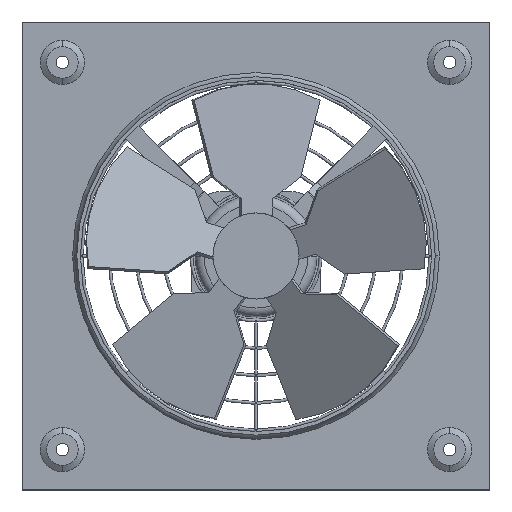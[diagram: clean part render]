
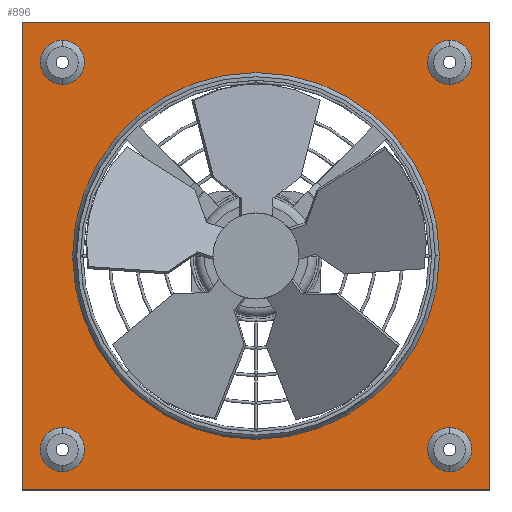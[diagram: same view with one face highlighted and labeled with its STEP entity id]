
A CAD part, top view. The second image highlights one B-rep face of the part: STEP entity #896.
In plain terms, the highlighted planar face has unit normal (0, 0, 1).
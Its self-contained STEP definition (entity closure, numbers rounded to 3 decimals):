
#896=ADVANCED_FACE('',(#1829,#1830,#1831,#1832,#1833,#1834),#1835,.T.);
#1829=FACE_BOUND('',#2766,.T.);
#1830=FACE_BOUND('',#2767,.T.);
#1831=FACE_BOUND('',#2768,.T.);
#1832=FACE_BOUND('',#2769,.T.);
#1833=FACE_OUTER_BOUND('',#2770,.T.);
#1834=FACE_BOUND('',#2771,.T.);
#1835=PLANE('',#2772);
#2766=EDGE_LOOP('',(#5582,#5583));
#2767=EDGE_LOOP('',(#5584,#5585));
#2768=EDGE_LOOP('',(#5586,#5587));
#2769=EDGE_LOOP('',(#5588,#5589));
#2770=EDGE_LOOP('',(#5590,#5591,#5592,#5593));
#2771=EDGE_LOOP('',(#5594,#5595,#5596));
#2772=AXIS2_PLACEMENT_3D('',#5597,#5598,#5599);
#5582=ORIENTED_EDGE('',*,*,#6746,.T.);
#5583=ORIENTED_EDGE('',*,*,#5924,.T.);
#5584=ORIENTED_EDGE('',*,*,#6750,.T.);
#5585=ORIENTED_EDGE('',*,*,#5919,.T.);
#5586=ORIENTED_EDGE('',*,*,#6754,.T.);
#5587=ORIENTED_EDGE('',*,*,#5914,.T.);
#5588=ORIENTED_EDGE('',*,*,#6758,.T.);
#5589=ORIENTED_EDGE('',*,*,#5909,.T.);
#5590=ORIENTED_EDGE('',*,*,#6775,.T.);
#5591=ORIENTED_EDGE('',*,*,#6776,.T.);
#5592=ORIENTED_EDGE('',*,*,#6777,.T.);
#5593=ORIENTED_EDGE('',*,*,#6778,.T.);
#5594=ORIENTED_EDGE('',*,*,#6779,.F.);
#5595=ORIENTED_EDGE('',*,*,#6780,.F.);
#5596=ORIENTED_EDGE('',*,*,#5880,.F.);
#5597=CARTESIAN_POINT('',(0.0,0.0,13.95));
#5598=DIRECTION('',(0.0,0.0,1.0));
#5599=DIRECTION('',(1.0,0.0,0.0));
#5880=EDGE_CURVE('',#7162,#7164,#7165,.T.);
#5909=EDGE_CURVE('',#7216,#7213,#7217,.T.);
#5914=EDGE_CURVE('',#7225,#7222,#7226,.T.);
#5919=EDGE_CURVE('',#7234,#7231,#7235,.T.);
#5924=EDGE_CURVE('',#7243,#7240,#7244,.T.);
#6746=EDGE_CURVE('',#7240,#7243,#8383,.T.);
#6750=EDGE_CURVE('',#7231,#7234,#8387,.T.);
#6754=EDGE_CURVE('',#7222,#7225,#8391,.T.);
#6758=EDGE_CURVE('',#7213,#7216,#8395,.T.);
#6775=EDGE_CURVE('',#8412,#8413,#8414,.T.);
#6776=EDGE_CURVE('',#8413,#8415,#8416,.T.);
#6777=EDGE_CURVE('',#8415,#8417,#8418,.T.);
#6778=EDGE_CURVE('',#8417,#8412,#8419,.T.);
#6779=EDGE_CURVE('',#8420,#7162,#8421,.T.);
#6780=EDGE_CURVE('',#7164,#8420,#8422,.T.);
#7162=VERTEX_POINT('',#11898);
#7164=VERTEX_POINT('',#11900);
#7165=CIRCLE('',#11901,130.5);
#7213=VERTEX_POINT('',#11959);
#7216=VERTEX_POINT('',#11963);
#7217=CIRCLE('',#11964,15.75);
#7222=VERTEX_POINT('',#11970);
#7225=VERTEX_POINT('',#11974);
#7226=CIRCLE('',#11975,15.75);
#7231=VERTEX_POINT('',#11981);
#7234=VERTEX_POINT('',#11985);
#7235=CIRCLE('',#11986,15.75);
#7240=VERTEX_POINT('',#11992);
#7243=VERTEX_POINT('',#11996);
#7244=CIRCLE('',#11997,15.75);
#8383=CIRCLE('',#16371,15.75);
#8387=CIRCLE('',#16375,15.75);
#8391=CIRCLE('',#16379,15.75);
#8395=CIRCLE('',#16383,15.75);
#8412=VERTEX_POINT('',#16400);
#8413=VERTEX_POINT('',#16401);
#8414=LINE('',#16402,#16403);
#8415=VERTEX_POINT('',#16404);
#8416=LINE('',#16405,#16406);
#8417=VERTEX_POINT('',#16407);
#8418=LINE('',#16408,#16409);
#8419=LINE('',#16410,#16411);
#8420=VERTEX_POINT('',#16412);
#8421=CIRCLE('',#16413,130.5);
#8422=CIRCLE('',#16414,130.5);
#11898=CARTESIAN_POINT('',(-130.5,0.,13.95));
#11900=CARTESIAN_POINT('',(130.5,0.,13.95));
#11901=AXIS2_PLACEMENT_3D('',#16637,#16638,#16639);
#11959=CARTESIAN_POINT('',(-137.75,-122.0,13.95));
#11963=CARTESIAN_POINT('',(-137.75,-153.5,13.95));
#11964=AXIS2_PLACEMENT_3D('',#16684,#16685,#16686);
#11970=CARTESIAN_POINT('',(-137.75,153.5,13.95));
#11974=CARTESIAN_POINT('',(-137.75,122.0,13.95));
#11975=AXIS2_PLACEMENT_3D('',#16692,#16693,#16694);
#11981=CARTESIAN_POINT('',(137.75,-122.0,13.95));
#11985=CARTESIAN_POINT('',(137.75,-153.5,13.95));
#11986=AXIS2_PLACEMENT_3D('',#16700,#16701,#16702);
#11992=CARTESIAN_POINT('',(137.75,153.5,13.95));
#11996=CARTESIAN_POINT('',(137.75,122.0,13.95));
#11997=AXIS2_PLACEMENT_3D('',#16708,#16709,#16710);
#16371=AXIS2_PLACEMENT_3D('',#17507,#17508,#17509);
#16375=AXIS2_PLACEMENT_3D('',#17513,#17514,#17515);
#16379=AXIS2_PLACEMENT_3D('',#17519,#17520,#17521);
#16383=AXIS2_PLACEMENT_3D('',#17525,#17526,#17527);
#16400=CARTESIAN_POINT('',(166.5,-166.5,13.95));
#16401=CARTESIAN_POINT('',(166.5,166.5,13.95));
#16402=CARTESIAN_POINT('',(166.5,0.0,13.95));
#16403=VECTOR('',#17543,1.0);
#16404=CARTESIAN_POINT('',(-166.5,166.5,13.95));
#16405=CARTESIAN_POINT('',(0.0,166.5,13.95));
#16406=VECTOR('',#17544,1.0);
#16407=CARTESIAN_POINT('',(-166.5,-166.5,13.95));
#16408=CARTESIAN_POINT('',(-166.5,0.0,13.95));
#16409=VECTOR('',#17545,1.0);
#16410=CARTESIAN_POINT('',(0.0,-166.5,13.95));
#16411=VECTOR('',#17546,1.0);
#16412=CARTESIAN_POINT('',(0.,130.5,13.95));
#16413=AXIS2_PLACEMENT_3D('',#17547,#17548,#17549);
#16414=AXIS2_PLACEMENT_3D('',#17550,#17551,#17552);
#16637=CARTESIAN_POINT('',(0.,0.0,13.95));
#16638=DIRECTION('',(0.,-0.0,1.0));
#16639=DIRECTION('',(0.0,1.0,0.0));
#16684=CARTESIAN_POINT('',(-137.75,-137.75,13.95));
#16685=DIRECTION('',(0.0,0.0,-1.0));
#16686=DIRECTION('',(0.0,1.0,0.0));
#16692=CARTESIAN_POINT('',(-137.75,137.75,13.95));
#16693=DIRECTION('',(0.0,0.0,-1.0));
#16694=DIRECTION('',(0.0,1.0,0.0));
#16700=CARTESIAN_POINT('',(137.75,-137.75,13.95));
#16701=DIRECTION('',(0.0,0.0,-1.0));
#16702=DIRECTION('',(0.0,1.0,0.0));
#16708=CARTESIAN_POINT('',(137.75,137.75,13.95));
#16709=DIRECTION('',(0.0,0.0,-1.0));
#16710=DIRECTION('',(0.0,1.0,0.0));
#17507=CARTESIAN_POINT('',(137.75,137.75,13.95));
#17508=DIRECTION('',(0.0,0.0,-1.0));
#17509=DIRECTION('',(0.0,1.0,0.0));
#17513=CARTESIAN_POINT('',(137.75,-137.75,13.95));
#17514=DIRECTION('',(0.0,0.0,-1.0));
#17515=DIRECTION('',(0.0,1.0,0.0));
#17519=CARTESIAN_POINT('',(-137.75,137.75,13.95));
#17520=DIRECTION('',(0.0,0.0,-1.0));
#17521=DIRECTION('',(0.0,1.0,0.0));
#17525=CARTESIAN_POINT('',(-137.75,-137.75,13.95));
#17526=DIRECTION('',(0.0,0.0,-1.0));
#17527=DIRECTION('',(0.0,1.0,0.0));
#17543=DIRECTION('',(0.0,1.0,0.0));
#17544=DIRECTION('',(-1.0,0.0,0.0));
#17545=DIRECTION('',(0.0,-1.0,0.0));
#17546=DIRECTION('',(1.0,0.0,0.0));
#17547=CARTESIAN_POINT('',(0.,0.0,13.95));
#17548=DIRECTION('',(0.,-0.0,1.0));
#17549=DIRECTION('',(0.0,1.0,0.0));
#17550=CARTESIAN_POINT('',(0.,0.0,13.95));
#17551=DIRECTION('',(0.,-0.0,1.0));
#17552=DIRECTION('',(0.0,1.0,0.0));
